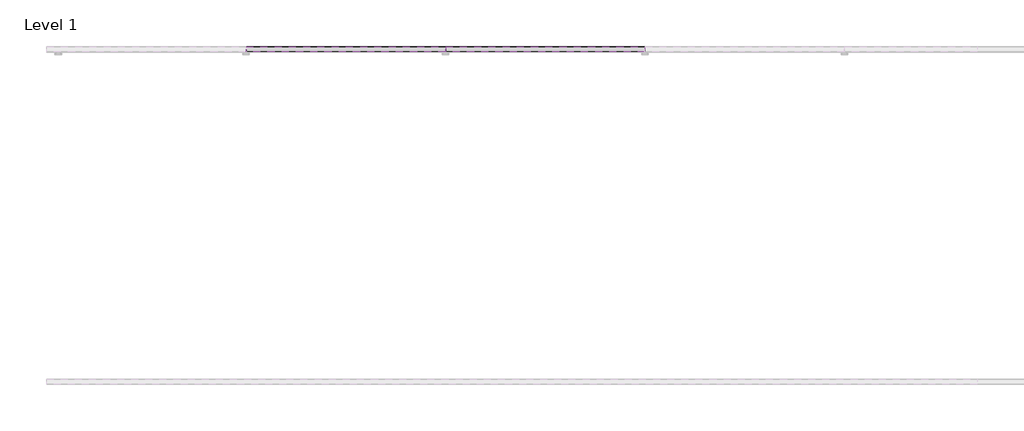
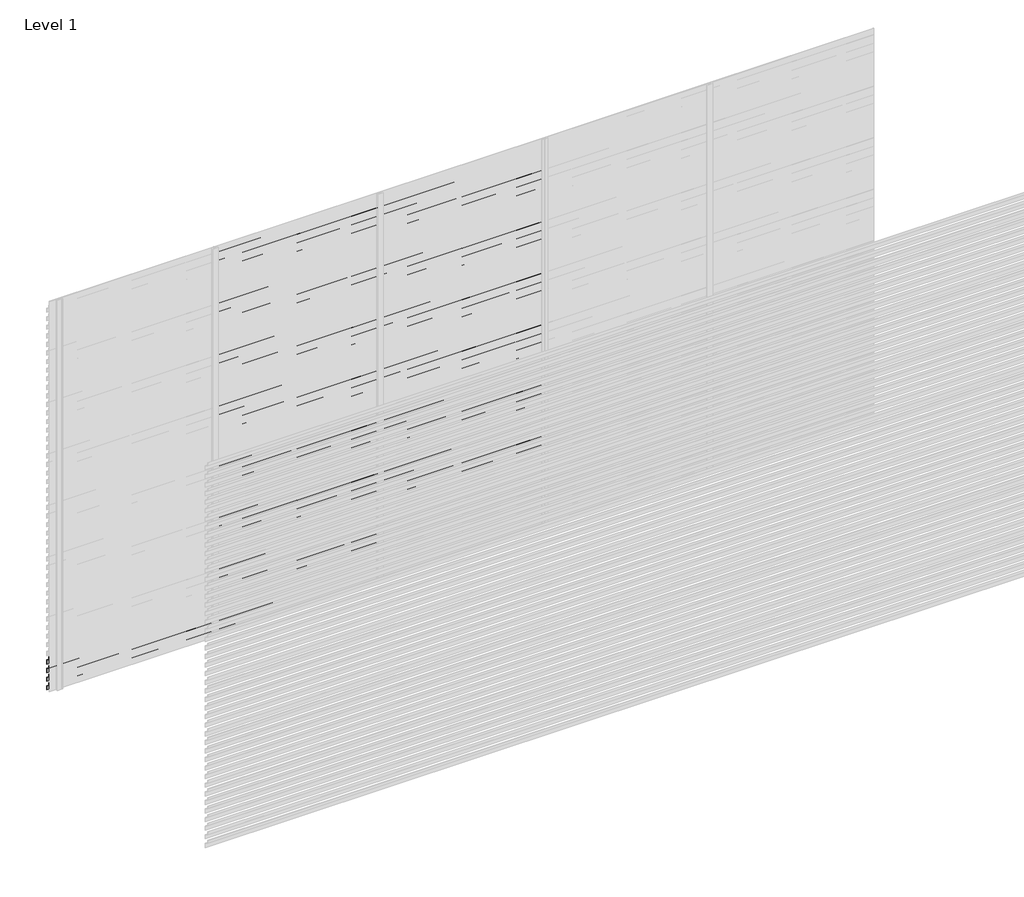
# One storey, part 95 of 540: 85 proxies.
"""IFC4 building model written with IfcOpenShell, lengths in millimetres."""

from ifc_helpers import new_model, si_unit, frame, origin, place, context, project, spatial, polyline, outline, extrude, element, save

model = new_model("IFC4")

# Units and contexts
model_context = context("Model", 3, world=origin())
ifc_project = project(units=[si_unit("LENGTHUNIT", "METRE", prefix="MILLI")], contexts=[model_context])

# Site, building, storey
site = spatial("IfcSite", under=ifc_project)
building = spatial("IfcBuilding", under=site)
storey = spatial("IfcBuildingStorey", under=building, Name="Level 1", Elevation=0.0)

# Proxies
placement = place(None, origin())
element("IfcBuildingElementProxy", 1, Name="Wall Sweeps", at=placement, inside=storey, context=model_context, shape_type="SweptSolid", body=[
    extrude(outline(polyline([(44014.0540136, 224.0), (44014.0540136, 191.0), (44012.8040136, 191.7216933), (44012.8040136, 223.2872415), (43983.0540136, 244.0588647), (43983.0540136, 264.0), (43984.3040136, 264.0), (43984.3040136, 244.7716232), (44014.0540136, 224.0)])), frame((44966.6208097, 0.0, 0.0), z_axis=(1.0, 0.0, 0.0), x_axis=(0.0, 1.0, 0.0)), (0.0, 0.0, 1.0), 1200.0),
])
element("IfcBuildingElementProxy", 2, Name="Wall Sweeps", at=placement, inside=storey, context=model_context, shape_type="SweptSolid", body=[
    extrude(outline(polyline([(44014.0540136, 158.0), (44014.0540136, 125.0), (44012.8040136, 125.7216933), (44012.8040136, 157.2872415), (43983.0540136, 178.0588647), (43983.0540136, 198.0), (43984.3040136, 198.0), (43984.3040136, 178.7716232), (44014.0540136, 158.0)])), frame((44966.6208097, 0.0, 0.0), z_axis=(1.0, 0.0, 0.0), x_axis=(0.0, 1.0, 0.0)), (0.0, 0.0, 1.0), 1200.0),
])
element("IfcBuildingElementProxy", 3, Name="Wall Sweeps", at=placement, inside=storey, context=model_context, shape_type="SweptSolid", body=[
    extrude(outline(polyline([(44014.0540136, 92.0), (44014.0540136, 59.0), (44012.8040136, 59.7216933), (44012.8040136, 91.2872415), (43983.0540136, 112.0588647), (43983.0540136, 132.0), (43984.3040136, 132.0), (43984.3040136, 112.7716232), (44014.0540136, 92.0)])), frame((44966.6208097, 0.0, 0.0), z_axis=(1.0, 0.0, 0.0), x_axis=(0.0, 1.0, 0.0)), (0.0, 0.0, 1.0), 1200.0),
])
element("IfcBuildingElementProxy", 4, Name="Wall Sweeps", at=placement, inside=storey, context=model_context, shape_type="SweptSolid", body=[
    extrude(outline(polyline([(44014.0540136, 26.0), (44014.0540136, -7.0), (44012.8040136, -6.2783067), (44012.8040136, 25.2872415), (43983.0540136, 46.0588647), (43983.0540136, 66.0), (43984.3040136, 66.0), (43984.3040136, 46.7716232), (44014.0540136, 26.0)])), frame((44966.6208097, 0.0, 0.0), z_axis=(1.0, 0.0, 0.0), x_axis=(0.0, 1.0, 0.0)), (0.0, 0.0, 1.0), 1200.0),
])
element("IfcBuildingElementProxy", 5, Name="Wall Sweeps", at=placement, inside=storey, context=model_context, shape_type="SweptSolid", body=[
    extrude(outline(polyline([(44014.0540136, 2930.0), (44014.0540136, 2897.0), (44012.8040136, 2897.7216933), (44012.8040136, 2929.2872415), (43983.0540136, 2950.0588647), (43983.0540136, 2970.0), (43984.3040136, 2970.0), (43984.3040136, 2950.7716232), (44014.0540136, 2930.0)])), frame((46166.6208097, 0.0, 0.0), z_axis=(1.0, 0.0, 0.0), x_axis=(0.0, 1.0, 0.0)), (0.0, 0.0, 1.0), 1200.0),
])
element("IfcBuildingElementProxy", 6, Name="Wall Sweeps", at=placement, inside=storey, context=model_context, shape_type="SweptSolid", body=[
    extrude(outline(polyline([(44014.0540136, 2864.0), (44014.0540136, 2831.0), (44012.8040136, 2831.7216933), (44012.8040136, 2863.2872415), (43983.0540136, 2884.0588647), (43983.0540136, 2904.0), (43984.3040136, 2904.0), (43984.3040136, 2884.7716232), (44014.0540136, 2864.0)])), frame((46166.6208097, 0.0, 0.0), z_axis=(1.0, 0.0, 0.0), x_axis=(0.0, 1.0, 0.0)), (0.0, 0.0, 1.0), 1200.0),
])
element("IfcBuildingElementProxy", 7, Name="Wall Sweeps", at=placement, inside=storey, context=model_context, shape_type="SweptSolid", body=[
    extrude(outline(polyline([(44014.0540136, 2798.0), (44014.0540136, 2765.0), (44012.8040136, 2765.7216933), (44012.8040136, 2797.2872415), (43983.0540136, 2818.0588647), (43983.0540136, 2838.0), (43984.3040136, 2838.0), (43984.3040136, 2818.7716232), (44014.0540136, 2798.0)])), frame((46166.6208097, 0.0, 0.0), z_axis=(1.0, 0.0, 0.0), x_axis=(0.0, 1.0, 0.0)), (0.0, 0.0, 1.0), 1200.0),
])
element("IfcBuildingElementProxy", 8, Name="Wall Sweeps", at=placement, inside=storey, context=model_context, shape_type="SweptSolid", body=[
    extrude(outline(polyline([(44014.0540136, 2732.0), (44014.0540136, 2699.0), (44012.8040136, 2699.7216933), (44012.8040136, 2731.2872415), (43983.0540136, 2752.0588647), (43983.0540136, 2772.0), (43984.3040136, 2772.0), (43984.3040136, 2752.7716232), (44014.0540136, 2732.0)])), frame((46166.6208097, 0.0, 0.0), z_axis=(1.0, 0.0, 0.0), x_axis=(0.0, 1.0, 0.0)), (0.0, 0.0, 1.0), 1200.0),
])
element("IfcBuildingElementProxy", 9, Name="Wall Sweeps", at=placement, inside=storey, context=model_context, shape_type="SweptSolid", body=[
    extrude(outline(polyline([(44014.0540136, 2666.0), (44014.0540136, 2633.0), (44012.8040136, 2633.7216933), (44012.8040136, 2665.2872415), (43983.0540136, 2686.0588647), (43983.0540136, 2706.0), (43984.3040136, 2706.0), (43984.3040136, 2686.7716232), (44014.0540136, 2666.0)])), frame((46166.6208097, 0.0, 0.0), z_axis=(1.0, 0.0, 0.0), x_axis=(0.0, 1.0, 0.0)), (0.0, 0.0, 1.0), 1200.0),
])
element("IfcBuildingElementProxy", 10, Name="Wall Sweeps", at=placement, inside=storey, context=model_context, shape_type="SweptSolid", body=[
    extrude(outline(polyline([(44014.0540136, 2600.0), (44014.0540136, 2567.0), (44012.8040136, 2567.7216933), (44012.8040136, 2599.2872415), (43983.0540136, 2620.0588647), (43983.0540136, 2640.0), (43984.3040136, 2640.0), (43984.3040136, 2620.7716232), (44014.0540136, 2600.0)])), frame((46166.6208097, 0.0, 0.0), z_axis=(1.0, 0.0, 0.0), x_axis=(0.0, 1.0, 0.0)), (0.0, 0.0, 1.0), 1200.0),
])
element("IfcBuildingElementProxy", 11, Name="Wall Sweeps", at=placement, inside=storey, context=model_context, shape_type="SweptSolid", body=[
    extrude(outline(polyline([(44014.0540136, 2534.0), (44014.0540136, 2501.0), (44012.8040136, 2501.7216933), (44012.8040136, 2533.2872415), (43983.0540136, 2554.0588647), (43983.0540136, 2574.0), (43984.3040136, 2574.0), (43984.3040136, 2554.7716232), (44014.0540136, 2534.0)])), frame((46166.6208097, 0.0, 0.0), z_axis=(1.0, 0.0, 0.0), x_axis=(0.0, 1.0, 0.0)), (0.0, 0.0, 1.0), 1200.0),
])
element("IfcBuildingElementProxy", 12, Name="Wall Sweeps", at=placement, inside=storey, context=model_context, shape_type="SweptSolid", body=[
    extrude(outline(polyline([(44014.0540136, 2468.0), (44014.0540136, 2435.0), (44012.8040136, 2435.7216933), (44012.8040136, 2467.2872415), (43983.0540136, 2488.0588647), (43983.0540136, 2508.0), (43984.3040136, 2508.0), (43984.3040136, 2488.7716232), (44014.0540136, 2468.0)])), frame((46166.6208097, 0.0, 0.0), z_axis=(1.0, 0.0, 0.0), x_axis=(0.0, 1.0, 0.0)), (0.0, 0.0, 1.0), 1200.0),
])
element("IfcBuildingElementProxy", 13, Name="Wall Sweeps", at=placement, inside=storey, context=model_context, shape_type="SweptSolid", body=[
    extrude(outline(polyline([(44014.0540136, 2402.0), (44014.0540136, 2369.0), (44012.8040136, 2369.7216933), (44012.8040136, 2401.2872415), (43983.0540136, 2422.0588647), (43983.0540136, 2442.0), (43984.3040136, 2442.0), (43984.3040136, 2422.7716232), (44014.0540136, 2402.0)])), frame((46166.6208097, 0.0, 0.0), z_axis=(1.0, 0.0, 0.0), x_axis=(0.0, 1.0, 0.0)), (0.0, 0.0, 1.0), 1200.0),
])
element("IfcBuildingElementProxy", 14, Name="Wall Sweeps", at=placement, inside=storey, context=model_context, shape_type="SweptSolid", body=[
    extrude(outline(polyline([(44014.0540136, 2336.0), (44014.0540136, 2303.0), (44012.8040136, 2303.7216933), (44012.8040136, 2335.2872415), (43983.0540136, 2356.0588647), (43983.0540136, 2376.0), (43984.3040136, 2376.0), (43984.3040136, 2356.7716232), (44014.0540136, 2336.0)])), frame((46166.6208097, 0.0, 0.0), z_axis=(1.0, 0.0, 0.0), x_axis=(0.0, 1.0, 0.0)), (0.0, 0.0, 1.0), 1200.0),
])
element("IfcBuildingElementProxy", 15, Name="Wall Sweeps", at=placement, inside=storey, context=model_context, shape_type="SweptSolid", body=[
    extrude(outline(polyline([(44014.0540136, 2270.0), (44014.0540136, 2237.0), (44012.8040136, 2237.7216933), (44012.8040136, 2269.2872415), (43983.0540136, 2290.0588647), (43983.0540136, 2310.0), (43984.3040136, 2310.0), (43984.3040136, 2290.7716232), (44014.0540136, 2270.0)])), frame((46166.6208097, 0.0, 0.0), z_axis=(1.0, 0.0, 0.0), x_axis=(0.0, 1.0, 0.0)), (0.0, 0.0, 1.0), 1200.0),
])
element("IfcBuildingElementProxy", 16, Name="Wall Sweeps", at=placement, inside=storey, context=model_context, shape_type="SweptSolid", body=[
    extrude(outline(polyline([(44014.0540136, 2204.0), (44014.0540136, 2171.0), (44012.8040136, 2171.7216933), (44012.8040136, 2203.2872415), (43983.0540136, 2224.0588647), (43983.0540136, 2244.0), (43984.3040136, 2244.0), (43984.3040136, 2224.7716232), (44014.0540136, 2204.0)])), frame((46166.6208097, 0.0, 0.0), z_axis=(1.0, 0.0, 0.0), x_axis=(0.0, 1.0, 0.0)), (0.0, 0.0, 1.0), 1200.0),
])
element("IfcBuildingElementProxy", 17, Name="Wall Sweeps", at=placement, inside=storey, context=model_context, shape_type="SweptSolid", body=[
    extrude(outline(polyline([(44014.0540136, 2138.0), (44014.0540136, 2105.0), (44012.8040136, 2105.7216933), (44012.8040136, 2137.2872415), (43983.0540136, 2158.0588647), (43983.0540136, 2178.0), (43984.3040136, 2178.0), (43984.3040136, 2158.7716232), (44014.0540136, 2138.0)])), frame((46166.6208097, 0.0, 0.0), z_axis=(1.0, 0.0, 0.0), x_axis=(0.0, 1.0, 0.0)), (0.0, 0.0, 1.0), 1200.0),
])
element("IfcBuildingElementProxy", 18, Name="Wall Sweeps", at=placement, inside=storey, context=model_context, shape_type="SweptSolid", body=[
    extrude(outline(polyline([(44014.0540136, 2072.0), (44014.0540136, 2039.0), (44012.8040136, 2039.7216933), (44012.8040136, 2071.2872415), (43983.0540136, 2092.0588647), (43983.0540136, 2112.0), (43984.3040136, 2112.0), (43984.3040136, 2092.7716232), (44014.0540136, 2072.0)])), frame((46166.6208097, 0.0, 0.0), z_axis=(1.0, 0.0, 0.0), x_axis=(0.0, 1.0, 0.0)), (0.0, 0.0, 1.0), 1200.0),
])
element("IfcBuildingElementProxy", 19, Name="Wall Sweeps", at=placement, inside=storey, context=model_context, shape_type="SweptSolid", body=[
    extrude(outline(polyline([(44014.0540136, 2006.0), (44014.0540136, 1973.0), (44012.8040136, 1973.7216933), (44012.8040136, 2005.2872415), (43983.0540136, 2026.0588647), (43983.0540136, 2046.0), (43984.3040136, 2046.0), (43984.3040136, 2026.7716232), (44014.0540136, 2006.0)])), frame((46166.6208097, 0.0, 0.0), z_axis=(1.0, 0.0, 0.0), x_axis=(0.0, 1.0, 0.0)), (0.0, 0.0, 1.0), 1200.0),
])
element("IfcBuildingElementProxy", 20, Name="Wall Sweeps", at=placement, inside=storey, context=model_context, shape_type="SweptSolid", body=[
    extrude(outline(polyline([(44014.0540136, 1940.0), (44014.0540136, 1907.0), (44012.8040136, 1907.7216933), (44012.8040136, 1939.2872415), (43983.0540136, 1960.0588647), (43983.0540136, 1980.0), (43984.3040136, 1980.0), (43984.3040136, 1960.7716232), (44014.0540136, 1940.0)])), frame((46166.6208097, 0.0, 0.0), z_axis=(1.0, 0.0, 0.0), x_axis=(0.0, 1.0, 0.0)), (0.0, 0.0, 1.0), 1200.0),
])
element("IfcBuildingElementProxy", 21, Name="Wall Sweeps", at=placement, inside=storey, context=model_context, shape_type="SweptSolid", body=[
    extrude(outline(polyline([(44014.0540136, 1874.0), (44014.0540136, 1841.0), (44012.8040136, 1841.7216933), (44012.8040136, 1873.2872415), (43983.0540136, 1894.0588647), (43983.0540136, 1914.0), (43984.3040136, 1914.0), (43984.3040136, 1894.7716232), (44014.0540136, 1874.0)])), frame((46166.6208097, 0.0, 0.0), z_axis=(1.0, 0.0, 0.0), x_axis=(0.0, 1.0, 0.0)), (0.0, 0.0, 1.0), 1200.0),
])
element("IfcBuildingElementProxy", 22, Name="Wall Sweeps", at=placement, inside=storey, context=model_context, shape_type="SweptSolid", body=[
    extrude(outline(polyline([(44014.0540136, 1808.0), (44014.0540136, 1775.0), (44012.8040136, 1775.7216933), (44012.8040136, 1807.2872415), (43983.0540136, 1828.0588647), (43983.0540136, 1848.0), (43984.3040136, 1848.0), (43984.3040136, 1828.7716232), (44014.0540136, 1808.0)])), frame((46166.6208097, 0.0, 0.0), z_axis=(1.0, 0.0, 0.0), x_axis=(0.0, 1.0, 0.0)), (0.0, 0.0, 1.0), 1200.0),
])
element("IfcBuildingElementProxy", 23, Name="Wall Sweeps", at=placement, inside=storey, context=model_context, shape_type="SweptSolid", body=[
    extrude(outline(polyline([(44014.0540136, 1742.0), (44014.0540136, 1709.0), (44012.8040136, 1709.7216933), (44012.8040136, 1741.2872415), (43983.0540136, 1762.0588647), (43983.0540136, 1782.0), (43984.3040136, 1782.0), (43984.3040136, 1762.7716232), (44014.0540136, 1742.0)])), frame((46166.6208097, 0.0, 0.0), z_axis=(1.0, 0.0, 0.0), x_axis=(0.0, 1.0, 0.0)), (0.0, 0.0, 1.0), 1200.0),
])
element("IfcBuildingElementProxy", 24, Name="Wall Sweeps", at=placement, inside=storey, context=model_context, shape_type="SweptSolid", body=[
    extrude(outline(polyline([(44014.0540136, 1676.0), (44014.0540136, 1643.0), (44012.8040136, 1643.7216933), (44012.8040136, 1675.2872415), (43983.0540136, 1696.0588647), (43983.0540136, 1716.0), (43984.3040136, 1716.0), (43984.3040136, 1696.7716232), (44014.0540136, 1676.0)])), frame((46166.6208097, 0.0, 0.0), z_axis=(1.0, 0.0, 0.0), x_axis=(0.0, 1.0, 0.0)), (0.0, 0.0, 1.0), 1200.0),
])
element("IfcBuildingElementProxy", 25, Name="Wall Sweeps", at=placement, inside=storey, context=model_context, shape_type="SweptSolid", body=[
    extrude(outline(polyline([(44014.0540136, 1610.0), (44014.0540136, 1577.0), (44012.8040136, 1577.7216933), (44012.8040136, 1609.2872415), (43983.0540136, 1630.0588647), (43983.0540136, 1650.0), (43984.3040136, 1650.0), (43984.3040136, 1630.7716232), (44014.0540136, 1610.0)])), frame((46166.6208097, 0.0, 0.0), z_axis=(1.0, 0.0, 0.0), x_axis=(0.0, 1.0, 0.0)), (0.0, 0.0, 1.0), 1200.0),
])
element("IfcBuildingElementProxy", 26, Name="Wall Sweeps", at=placement, inside=storey, context=model_context, shape_type="SweptSolid", body=[
    extrude(outline(polyline([(44014.0540136, 1544.0), (44014.0540136, 1511.0), (44012.8040136, 1511.7216933), (44012.8040136, 1543.2872415), (43983.0540136, 1564.0588647), (43983.0540136, 1584.0), (43984.3040136, 1584.0), (43984.3040136, 1564.7716232), (44014.0540136, 1544.0)])), frame((46166.6208097, 0.0, 0.0), z_axis=(1.0, 0.0, 0.0), x_axis=(0.0, 1.0, 0.0)), (0.0, 0.0, 1.0), 1200.0),
])
element("IfcBuildingElementProxy", 27, Name="Wall Sweeps", at=placement, inside=storey, context=model_context, shape_type="SweptSolid", body=[
    extrude(outline(polyline([(44014.0540136, 1478.0), (44014.0540136, 1445.0), (44012.8040136, 1445.7216933), (44012.8040136, 1477.2872415), (43983.0540136, 1498.0588647), (43983.0540136, 1518.0), (43984.3040136, 1518.0), (43984.3040136, 1498.7716232), (44014.0540136, 1478.0)])), frame((46166.6208097, 0.0, 0.0), z_axis=(1.0, 0.0, 0.0), x_axis=(0.0, 1.0, 0.0)), (0.0, 0.0, 1.0), 1200.0),
])
element("IfcBuildingElementProxy", 28, Name="Wall Sweeps", at=placement, inside=storey, context=model_context, shape_type="SweptSolid", body=[
    extrude(outline(polyline([(44014.0540136, 1412.0), (44014.0540136, 1379.0), (44012.8040136, 1379.7216933), (44012.8040136, 1411.2872415), (43983.0540136, 1432.0588647), (43983.0540136, 1452.0), (43984.3040136, 1452.0), (43984.3040136, 1432.7716232), (44014.0540136, 1412.0)])), frame((46166.6208097, 0.0, 0.0), z_axis=(1.0, 0.0, 0.0), x_axis=(0.0, 1.0, 0.0)), (0.0, 0.0, 1.0), 1200.0),
])
element("IfcBuildingElementProxy", 29, Name="Wall Sweeps", at=placement, inside=storey, context=model_context, shape_type="SweptSolid", body=[
    extrude(outline(polyline([(44014.0540136, 1346.0), (44014.0540136, 1313.0), (44012.8040136, 1313.7216933), (44012.8040136, 1345.2872415), (43983.0540136, 1366.0588647), (43983.0540136, 1386.0), (43984.3040136, 1386.0), (43984.3040136, 1366.7716232), (44014.0540136, 1346.0)])), frame((46166.6208097, 0.0, 0.0), z_axis=(1.0, 0.0, 0.0), x_axis=(0.0, 1.0, 0.0)), (0.0, 0.0, 1.0), 1200.0),
])
element("IfcBuildingElementProxy", 30, Name="Wall Sweeps", at=placement, inside=storey, context=model_context, shape_type="SweptSolid", body=[
    extrude(outline(polyline([(44014.0540136, 1280.0), (44014.0540136, 1247.0), (44012.8040136, 1247.7216933), (44012.8040136, 1279.2872415), (43983.0540136, 1300.0588647), (43983.0540136, 1320.0), (43984.3040136, 1320.0), (43984.3040136, 1300.7716232), (44014.0540136, 1280.0)])), frame((46166.6208097, 0.0, 0.0), z_axis=(1.0, 0.0, 0.0), x_axis=(0.0, 1.0, 0.0)), (0.0, 0.0, 1.0), 1200.0),
])
element("IfcBuildingElementProxy", 31, Name="Wall Sweeps", at=placement, inside=storey, context=model_context, shape_type="SweptSolid", body=[
    extrude(outline(polyline([(44014.0540136, 1214.0), (44014.0540136, 1181.0), (44012.8040136, 1181.7216933), (44012.8040136, 1213.2872415), (43983.0540136, 1234.0588647), (43983.0540136, 1254.0), (43984.3040136, 1254.0), (43984.3040136, 1234.7716232), (44014.0540136, 1214.0)])), frame((46166.6208097, 0.0, 0.0), z_axis=(1.0, 0.0, 0.0), x_axis=(0.0, 1.0, 0.0)), (0.0, 0.0, 1.0), 1200.0),
])
element("IfcBuildingElementProxy", 32, Name="Wall Sweeps", at=placement, inside=storey, context=model_context, shape_type="SweptSolid", body=[
    extrude(outline(polyline([(44014.0540136, 1148.0), (44014.0540136, 1115.0), (44012.8040136, 1115.7216933), (44012.8040136, 1147.2872415), (43983.0540136, 1168.0588647), (43983.0540136, 1188.0), (43984.3040136, 1188.0), (43984.3040136, 1168.7716232), (44014.0540136, 1148.0)])), frame((46166.6208097, 0.0, 0.0), z_axis=(1.0, 0.0, 0.0), x_axis=(0.0, 1.0, 0.0)), (0.0, 0.0, 1.0), 1200.0),
])
element("IfcBuildingElementProxy", 33, Name="Wall Sweeps", at=placement, inside=storey, context=model_context, shape_type="SweptSolid", body=[
    extrude(outline(polyline([(44014.0540136, 1082.0), (44014.0540136, 1049.0), (44012.8040136, 1049.7216933), (44012.8040136, 1081.2872415), (43983.0540136, 1102.0588647), (43983.0540136, 1122.0), (43984.3040136, 1122.0), (43984.3040136, 1102.7716232), (44014.0540136, 1082.0)])), frame((46166.6208097, 0.0, 0.0), z_axis=(1.0, 0.0, 0.0), x_axis=(0.0, 1.0, 0.0)), (0.0, 0.0, 1.0), 1200.0),
])
element("IfcBuildingElementProxy", 34, Name="Wall Sweeps", at=placement, inside=storey, context=model_context, shape_type="SweptSolid", body=[
    extrude(outline(polyline([(44014.0540136, 1016.0), (44014.0540136, 983.0), (44012.8040136, 983.7216933), (44012.8040136, 1015.2872415), (43983.0540136, 1036.0588647), (43983.0540136, 1056.0), (43984.3040136, 1056.0), (43984.3040136, 1036.7716232), (44014.0540136, 1016.0)])), frame((46166.6208097, 0.0, 0.0), z_axis=(1.0, 0.0, 0.0), x_axis=(0.0, 1.0, 0.0)), (0.0, 0.0, 1.0), 1200.0),
])
element("IfcBuildingElementProxy", 35, Name="Wall Sweeps", at=placement, inside=storey, context=model_context, shape_type="SweptSolid", body=[
    extrude(outline(polyline([(44014.0540136, 950.0), (44014.0540136, 917.0), (44012.8040136, 917.7216933), (44012.8040136, 949.2872415), (43983.0540136, 970.0588647), (43983.0540136, 990.0), (43984.3040136, 990.0), (43984.3040136, 970.7716232), (44014.0540136, 950.0)])), frame((46166.6208097, 0.0, 0.0), z_axis=(1.0, 0.0, 0.0), x_axis=(0.0, 1.0, 0.0)), (0.0, 0.0, 1.0), 1200.0),
])
element("IfcBuildingElementProxy", 36, Name="Wall Sweeps", at=placement, inside=storey, context=model_context, shape_type="SweptSolid", body=[
    extrude(outline(polyline([(44014.0540136, 884.0), (44014.0540136, 851.0), (44012.8040136, 851.7216933), (44012.8040136, 883.2872415), (43983.0540136, 904.0588647), (43983.0540136, 924.0), (43984.3040136, 924.0), (43984.3040136, 904.7716232), (44014.0540136, 884.0)])), frame((46166.6208097, 0.0, 0.0), z_axis=(1.0, 0.0, 0.0), x_axis=(0.0, 1.0, 0.0)), (0.0, 0.0, 1.0), 1200.0),
])
element("IfcBuildingElementProxy", 37, Name="Wall Sweeps", at=placement, inside=storey, context=model_context, shape_type="SweptSolid", body=[
    extrude(outline(polyline([(44014.0540136, 818.0), (44014.0540136, 785.0), (44012.8040136, 785.7216933), (44012.8040136, 817.2872415), (43983.0540136, 838.0588647), (43983.0540136, 858.0), (43984.3040136, 858.0), (43984.3040136, 838.7716232), (44014.0540136, 818.0)])), frame((46166.6208097, 0.0, 0.0), z_axis=(1.0, 0.0, 0.0), x_axis=(0.0, 1.0, 0.0)), (0.0, 0.0, 1.0), 1200.0),
])
element("IfcBuildingElementProxy", 38, Name="Wall Sweeps", at=placement, inside=storey, context=model_context, shape_type="SweptSolid", body=[
    extrude(outline(polyline([(44014.0540136, 752.0), (44014.0540136, 719.0), (44012.8040136, 719.7216933), (44012.8040136, 751.2872415), (43983.0540136, 772.0588647), (43983.0540136, 792.0), (43984.3040136, 792.0), (43984.3040136, 772.7716232), (44014.0540136, 752.0)])), frame((46166.6208097, 0.0, 0.0), z_axis=(1.0, 0.0, 0.0), x_axis=(0.0, 1.0, 0.0)), (0.0, 0.0, 1.0), 1200.0),
])
element("IfcBuildingElementProxy", 39, Name="Wall Sweeps", at=placement, inside=storey, context=model_context, shape_type="SweptSolid", body=[
    extrude(outline(polyline([(44014.0540136, 686.0), (44014.0540136, 653.0), (44012.8040136, 653.7216933), (44012.8040136, 685.2872415), (43983.0540136, 706.0588647), (43983.0540136, 726.0), (43984.3040136, 726.0), (43984.3040136, 706.7716232), (44014.0540136, 686.0)])), frame((46166.6208097, 0.0, 0.0), z_axis=(1.0, 0.0, 0.0), x_axis=(0.0, 1.0, 0.0)), (0.0, 0.0, 1.0), 1200.0),
])
element("IfcBuildingElementProxy", 40, Name="Wall Sweeps", at=placement, inside=storey, context=model_context, shape_type="SweptSolid", body=[
    extrude(outline(polyline([(44014.0540136, 620.0), (44014.0540136, 587.0), (44012.8040136, 587.7216933), (44012.8040136, 619.2872415), (43983.0540136, 640.0588647), (43983.0540136, 660.0), (43984.3040136, 660.0), (43984.3040136, 640.7716232), (44014.0540136, 620.0)])), frame((46166.6208097, 0.0, 0.0), z_axis=(1.0, 0.0, 0.0), x_axis=(0.0, 1.0, 0.0)), (0.0, 0.0, 1.0), 1200.0),
])
element("IfcBuildingElementProxy", 41, Name="Wall Sweeps", at=placement, inside=storey, context=model_context, shape_type="SweptSolid", body=[
    extrude(outline(polyline([(44014.0540136, 554.0), (44014.0540136, 521.0), (44012.8040136, 521.7216933), (44012.8040136, 553.2872415), (43983.0540136, 574.0588647), (43983.0540136, 594.0), (43984.3040136, 594.0), (43984.3040136, 574.7716232), (44014.0540136, 554.0)])), frame((46166.6208097, 0.0, 0.0), z_axis=(1.0, 0.0, 0.0), x_axis=(0.0, 1.0, 0.0)), (0.0, 0.0, 1.0), 1200.0),
])
element("IfcBuildingElementProxy", 42, Name="Wall Sweeps", at=placement, inside=storey, context=model_context, shape_type="SweptSolid", body=[
    extrude(outline(polyline([(44014.0540136, 488.0), (44014.0540136, 455.0), (44012.8040136, 455.7216933), (44012.8040136, 487.2872415), (43983.0540136, 508.0588647), (43983.0540136, 528.0), (43984.3040136, 528.0), (43984.3040136, 508.7716232), (44014.0540136, 488.0)])), frame((46166.6208097, 0.0, 0.0), z_axis=(1.0, 0.0, 0.0), x_axis=(0.0, 1.0, 0.0)), (0.0, 0.0, 1.0), 1200.0),
])
element("IfcBuildingElementProxy", 43, Name="Wall Sweeps", at=placement, inside=storey, context=model_context, shape_type="SweptSolid", body=[
    extrude(outline(polyline([(44014.0540136, 422.0), (44014.0540136, 389.0), (44012.8040136, 389.7216933), (44012.8040136, 421.2872415), (43983.0540136, 442.0588647), (43983.0540136, 462.0), (43984.3040136, 462.0), (43984.3040136, 442.7716232), (44014.0540136, 422.0)])), frame((46166.6208097, 0.0, 0.0), z_axis=(1.0, 0.0, 0.0), x_axis=(0.0, 1.0, 0.0)), (0.0, 0.0, 1.0), 1200.0),
])
element("IfcBuildingElementProxy", 44, Name="Wall Sweeps", at=placement, inside=storey, context=model_context, shape_type="SweptSolid", body=[
    extrude(outline(polyline([(44014.0540136, 356.0), (44014.0540136, 323.0), (44012.8040136, 323.7216933), (44012.8040136, 355.2872415), (43983.0540136, 376.0588647), (43983.0540136, 396.0), (43984.3040136, 396.0), (43984.3040136, 376.7716232), (44014.0540136, 356.0)])), frame((46166.6208097, 0.0, 0.0), z_axis=(1.0, 0.0, 0.0), x_axis=(0.0, 1.0, 0.0)), (0.0, 0.0, 1.0), 1200.0),
])
element("IfcBuildingElementProxy", 45, Name="Wall Sweeps", at=placement, inside=storey, context=model_context, shape_type="SweptSolid", body=[
    extrude(outline(polyline([(44014.0540136, 290.0), (44014.0540136, 257.0), (44012.8040136, 257.7216933), (44012.8040136, 289.2872415), (43983.0540136, 310.0588647), (43983.0540136, 330.0), (43984.3040136, 330.0), (43984.3040136, 310.7716232), (44014.0540136, 290.0)])), frame((46166.6208097, 0.0, 0.0), z_axis=(1.0, 0.0, 0.0), x_axis=(0.0, 1.0, 0.0)), (0.0, 0.0, 1.0), 1200.0),
])
element("IfcBuildingElementProxy", 46, Name="Wall Sweeps", at=placement, inside=storey, context=model_context, shape_type="SweptSolid", body=[
    extrude(outline(polyline([(44014.0540136, 224.0), (44014.0540136, 191.0), (44012.8040136, 191.7216933), (44012.8040136, 223.2872415), (43983.0540136, 244.0588647), (43983.0540136, 264.0), (43984.3040136, 264.0), (43984.3040136, 244.7716232), (44014.0540136, 224.0)])), frame((46166.6208097, 0.0, 0.0), z_axis=(1.0, 0.0, 0.0), x_axis=(0.0, 1.0, 0.0)), (0.0, 0.0, 1.0), 1200.0),
])
element("IfcBuildingElementProxy", 47, Name="Wall Sweeps", at=placement, inside=storey, context=model_context, shape_type="SweptSolid", body=[
    extrude(outline(polyline([(44014.0540136, 158.0), (44014.0540136, 125.0), (44012.8040136, 125.7216933), (44012.8040136, 157.2872415), (43983.0540136, 178.0588647), (43983.0540136, 198.0), (43984.3040136, 198.0), (43984.3040136, 178.7716232), (44014.0540136, 158.0)])), frame((46166.6208097, 0.0, 0.0), z_axis=(1.0, 0.0, 0.0), x_axis=(0.0, 1.0, 0.0)), (0.0, 0.0, 1.0), 1200.0),
])
element("IfcBuildingElementProxy", 48, Name="Wall Sweeps", at=placement, inside=storey, context=model_context, shape_type="SweptSolid", body=[
    extrude(outline(polyline([(44014.0540136, 92.0), (44014.0540136, 59.0), (44012.8040136, 59.7216933), (44012.8040136, 91.2872415), (43983.0540136, 112.0588647), (43983.0540136, 132.0), (43984.3040136, 132.0), (43984.3040136, 112.7716232), (44014.0540136, 92.0)])), frame((46166.6208097, 0.0, 0.0), z_axis=(1.0, 0.0, 0.0), x_axis=(0.0, 1.0, 0.0)), (0.0, 0.0, 1.0), 1200.0),
])
element("IfcBuildingElementProxy", 49, Name="Wall Sweeps", at=placement, inside=storey, context=model_context, shape_type="SweptSolid", body=[
    extrude(outline(polyline([(44014.0540136, 26.0), (44014.0540136, -7.0), (44012.8040136, -6.2783067), (44012.8040136, 25.2872415), (43983.0540136, 46.0588647), (43983.0540136, 66.0), (43984.3040136, 66.0), (43984.3040136, 46.7716232), (44014.0540136, 26.0)])), frame((46166.6208097, 0.0, 0.0), z_axis=(1.0, 0.0, 0.0), x_axis=(0.0, 1.0, 0.0)), (0.0, 0.0, 1.0), 1200.0),
])
element("IfcBuildingElementProxy", 50, Name="Wall Sweeps", at=placement, inside=storey, context=model_context, shape_type="SweptSolid", body=[
    extrude(outline(polyline([(44014.0540136, 2930.0), (44014.0540136, 2897.0), (44012.8040136, 2897.7216933), (44012.8040136, 2929.2872415), (43983.0540136, 2950.0588647), (43983.0540136, 2970.0), (43984.3040136, 2970.0), (43984.3040136, 2950.7716232), (44014.0540136, 2930.0)])), frame((47366.6208097, 0.0, 0.0), z_axis=(1.0, 0.0, 0.0), x_axis=(0.0, 1.0, 0.0)), (0.0, 0.0, 1.0), 1200.0),
])
element("IfcBuildingElementProxy", 51, Name="Wall Sweeps", at=placement, inside=storey, context=model_context, shape_type="SweptSolid", body=[
    extrude(outline(polyline([(44014.0540136, 2864.0), (44014.0540136, 2831.0), (44012.8040136, 2831.7216933), (44012.8040136, 2863.2872415), (43983.0540136, 2884.0588647), (43983.0540136, 2904.0), (43984.3040136, 2904.0), (43984.3040136, 2884.7716232), (44014.0540136, 2864.0)])), frame((47366.6208097, 0.0, 0.0), z_axis=(1.0, 0.0, 0.0), x_axis=(0.0, 1.0, 0.0)), (0.0, 0.0, 1.0), 1200.0),
])
element("IfcBuildingElementProxy", 52, Name="Wall Sweeps", at=placement, inside=storey, context=model_context, shape_type="SweptSolid", body=[
    extrude(outline(polyline([(44014.0540136, 2798.0), (44014.0540136, 2765.0), (44012.8040136, 2765.7216933), (44012.8040136, 2797.2872415), (43983.0540136, 2818.0588647), (43983.0540136, 2838.0), (43984.3040136, 2838.0), (43984.3040136, 2818.7716232), (44014.0540136, 2798.0)])), frame((47366.6208097, 0.0, 0.0), z_axis=(1.0, 0.0, 0.0), x_axis=(0.0, 1.0, 0.0)), (0.0, 0.0, 1.0), 1200.0),
])
element("IfcBuildingElementProxy", 53, Name="Wall Sweeps", at=placement, inside=storey, context=model_context, shape_type="SweptSolid", body=[
    extrude(outline(polyline([(44014.0540136, 2732.0), (44014.0540136, 2699.0), (44012.8040136, 2699.7216933), (44012.8040136, 2731.2872415), (43983.0540136, 2752.0588647), (43983.0540136, 2772.0), (43984.3040136, 2772.0), (43984.3040136, 2752.7716232), (44014.0540136, 2732.0)])), frame((47366.6208097, 0.0, 0.0), z_axis=(1.0, 0.0, 0.0), x_axis=(0.0, 1.0, 0.0)), (0.0, 0.0, 1.0), 1200.0),
])
element("IfcBuildingElementProxy", 54, Name="Wall Sweeps", at=placement, inside=storey, context=model_context, shape_type="SweptSolid", body=[
    extrude(outline(polyline([(44014.0540136, 2666.0), (44014.0540136, 2633.0), (44012.8040136, 2633.7216933), (44012.8040136, 2665.2872415), (43983.0540136, 2686.0588647), (43983.0540136, 2706.0), (43984.3040136, 2706.0), (43984.3040136, 2686.7716232), (44014.0540136, 2666.0)])), frame((47366.6208097, 0.0, 0.0), z_axis=(1.0, 0.0, 0.0), x_axis=(0.0, 1.0, 0.0)), (0.0, 0.0, 1.0), 1200.0),
])
element("IfcBuildingElementProxy", 55, Name="Wall Sweeps", at=placement, inside=storey, context=model_context, shape_type="SweptSolid", body=[
    extrude(outline(polyline([(44014.0540136, 2600.0), (44014.0540136, 2567.0), (44012.8040136, 2567.7216933), (44012.8040136, 2599.2872415), (43983.0540136, 2620.0588647), (43983.0540136, 2640.0), (43984.3040136, 2640.0), (43984.3040136, 2620.7716232), (44014.0540136, 2600.0)])), frame((47366.6208097, 0.0, 0.0), z_axis=(1.0, 0.0, 0.0), x_axis=(0.0, 1.0, 0.0)), (0.0, 0.0, 1.0), 1200.0),
])
element("IfcBuildingElementProxy", 56, Name="Wall Sweeps", at=placement, inside=storey, context=model_context, shape_type="SweptSolid", body=[
    extrude(outline(polyline([(44014.0540136, 2534.0), (44014.0540136, 2501.0), (44012.8040136, 2501.7216933), (44012.8040136, 2533.2872415), (43983.0540136, 2554.0588647), (43983.0540136, 2574.0), (43984.3040136, 2574.0), (43984.3040136, 2554.7716232), (44014.0540136, 2534.0)])), frame((47366.6208097, 0.0, 0.0), z_axis=(1.0, 0.0, 0.0), x_axis=(0.0, 1.0, 0.0)), (0.0, 0.0, 1.0), 1200.0),
])
element("IfcBuildingElementProxy", 57, Name="Wall Sweeps", at=placement, inside=storey, context=model_context, shape_type="SweptSolid", body=[
    extrude(outline(polyline([(44014.0540136, 2468.0), (44014.0540136, 2435.0), (44012.8040136, 2435.7216933), (44012.8040136, 2467.2872415), (43983.0540136, 2488.0588647), (43983.0540136, 2508.0), (43984.3040136, 2508.0), (43984.3040136, 2488.7716232), (44014.0540136, 2468.0)])), frame((47366.6208097, 0.0, 0.0), z_axis=(1.0, 0.0, 0.0), x_axis=(0.0, 1.0, 0.0)), (0.0, 0.0, 1.0), 1200.0),
])
element("IfcBuildingElementProxy", 58, Name="Wall Sweeps", at=placement, inside=storey, context=model_context, shape_type="SweptSolid", body=[
    extrude(outline(polyline([(44014.0540136, 2402.0), (44014.0540136, 2369.0), (44012.8040136, 2369.7216933), (44012.8040136, 2401.2872415), (43983.0540136, 2422.0588647), (43983.0540136, 2442.0), (43984.3040136, 2442.0), (43984.3040136, 2422.7716232), (44014.0540136, 2402.0)])), frame((47366.6208097, 0.0, 0.0), z_axis=(1.0, 0.0, 0.0), x_axis=(0.0, 1.0, 0.0)), (0.0, 0.0, 1.0), 1200.0),
])
element("IfcBuildingElementProxy", 59, Name="Wall Sweeps", at=placement, inside=storey, context=model_context, shape_type="SweptSolid", body=[
    extrude(outline(polyline([(44014.0540136, 2336.0), (44014.0540136, 2303.0), (44012.8040136, 2303.7216933), (44012.8040136, 2335.2872415), (43983.0540136, 2356.0588647), (43983.0540136, 2376.0), (43984.3040136, 2376.0), (43984.3040136, 2356.7716232), (44014.0540136, 2336.0)])), frame((47366.6208097, 0.0, 0.0), z_axis=(1.0, 0.0, 0.0), x_axis=(0.0, 1.0, 0.0)), (0.0, 0.0, 1.0), 1200.0),
])
element("IfcBuildingElementProxy", 60, Name="Wall Sweeps", at=placement, inside=storey, context=model_context, shape_type="SweptSolid", body=[
    extrude(outline(polyline([(44014.0540136, 2270.0), (44014.0540136, 2237.0), (44012.8040136, 2237.7216933), (44012.8040136, 2269.2872415), (43983.0540136, 2290.0588647), (43983.0540136, 2310.0), (43984.3040136, 2310.0), (43984.3040136, 2290.7716232), (44014.0540136, 2270.0)])), frame((47366.6208097, 0.0, 0.0), z_axis=(1.0, 0.0, 0.0), x_axis=(0.0, 1.0, 0.0)), (0.0, 0.0, 1.0), 1200.0),
])
element("IfcBuildingElementProxy", 61, Name="Wall Sweeps", at=placement, inside=storey, context=model_context, shape_type="SweptSolid", body=[
    extrude(outline(polyline([(44014.0540136, 2204.0), (44014.0540136, 2171.0), (44012.8040136, 2171.7216933), (44012.8040136, 2203.2872415), (43983.0540136, 2224.0588647), (43983.0540136, 2244.0), (43984.3040136, 2244.0), (43984.3040136, 2224.7716232), (44014.0540136, 2204.0)])), frame((47366.6208097, 0.0, 0.0), z_axis=(1.0, 0.0, 0.0), x_axis=(0.0, 1.0, 0.0)), (0.0, 0.0, 1.0), 1200.0),
])
element("IfcBuildingElementProxy", 62, Name="Wall Sweeps", at=placement, inside=storey, context=model_context, shape_type="SweptSolid", body=[
    extrude(outline(polyline([(44014.0540136, 2138.0), (44014.0540136, 2105.0), (44012.8040136, 2105.7216933), (44012.8040136, 2137.2872415), (43983.0540136, 2158.0588647), (43983.0540136, 2178.0), (43984.3040136, 2178.0), (43984.3040136, 2158.7716232), (44014.0540136, 2138.0)])), frame((47366.6208097, 0.0, 0.0), z_axis=(1.0, 0.0, 0.0), x_axis=(0.0, 1.0, 0.0)), (0.0, 0.0, 1.0), 1200.0),
])
element("IfcBuildingElementProxy", 63, Name="Wall Sweeps", at=placement, inside=storey, context=model_context, shape_type="SweptSolid", body=[
    extrude(outline(polyline([(44014.0540136, 2072.0), (44014.0540136, 2039.0), (44012.8040136, 2039.7216933), (44012.8040136, 2071.2872415), (43983.0540136, 2092.0588647), (43983.0540136, 2112.0), (43984.3040136, 2112.0), (43984.3040136, 2092.7716232), (44014.0540136, 2072.0)])), frame((47366.6208097, 0.0, 0.0), z_axis=(1.0, 0.0, 0.0), x_axis=(0.0, 1.0, 0.0)), (0.0, 0.0, 1.0), 1200.0),
])
element("IfcBuildingElementProxy", 64, Name="Wall Sweeps", at=placement, inside=storey, context=model_context, shape_type="SweptSolid", body=[
    extrude(outline(polyline([(44014.0540136, 2006.0), (44014.0540136, 1973.0), (44012.8040136, 1973.7216933), (44012.8040136, 2005.2872415), (43983.0540136, 2026.0588647), (43983.0540136, 2046.0), (43984.3040136, 2046.0), (43984.3040136, 2026.7716232), (44014.0540136, 2006.0)])), frame((47366.6208097, 0.0, 0.0), z_axis=(1.0, 0.0, 0.0), x_axis=(0.0, 1.0, 0.0)), (0.0, 0.0, 1.0), 1200.0),
])
element("IfcBuildingElementProxy", 65, Name="Wall Sweeps", at=placement, inside=storey, context=model_context, shape_type="SweptSolid", body=[
    extrude(outline(polyline([(44014.0540136, 1940.0), (44014.0540136, 1907.0), (44012.8040136, 1907.7216933), (44012.8040136, 1939.2872415), (43983.0540136, 1960.0588647), (43983.0540136, 1980.0), (43984.3040136, 1980.0), (43984.3040136, 1960.7716232), (44014.0540136, 1940.0)])), frame((47366.6208097, 0.0, 0.0), z_axis=(1.0, 0.0, 0.0), x_axis=(0.0, 1.0, 0.0)), (0.0, 0.0, 1.0), 1200.0),
])
element("IfcBuildingElementProxy", 66, Name="Wall Sweeps", at=placement, inside=storey, context=model_context, shape_type="SweptSolid", body=[
    extrude(outline(polyline([(44014.0540136, 1874.0), (44014.0540136, 1841.0), (44012.8040136, 1841.7216933), (44012.8040136, 1873.2872415), (43983.0540136, 1894.0588647), (43983.0540136, 1914.0), (43984.3040136, 1914.0), (43984.3040136, 1894.7716232), (44014.0540136, 1874.0)])), frame((47366.6208097, 0.0, 0.0), z_axis=(1.0, 0.0, 0.0), x_axis=(0.0, 1.0, 0.0)), (0.0, 0.0, 1.0), 1200.0),
])
element("IfcBuildingElementProxy", 67, Name="Wall Sweeps", at=placement, inside=storey, context=model_context, shape_type="SweptSolid", body=[
    extrude(outline(polyline([(44014.0540136, 1808.0), (44014.0540136, 1775.0), (44012.8040136, 1775.7216933), (44012.8040136, 1807.2872415), (43983.0540136, 1828.0588647), (43983.0540136, 1848.0), (43984.3040136, 1848.0), (43984.3040136, 1828.7716232), (44014.0540136, 1808.0)])), frame((47366.6208097, 0.0, 0.0), z_axis=(1.0, 0.0, 0.0), x_axis=(0.0, 1.0, 0.0)), (0.0, 0.0, 1.0), 1200.0),
])
element("IfcBuildingElementProxy", 68, Name="Wall Sweeps", at=placement, inside=storey, context=model_context, shape_type="SweptSolid", body=[
    extrude(outline(polyline([(44014.0540136, 1742.0), (44014.0540136, 1709.0), (44012.8040136, 1709.7216933), (44012.8040136, 1741.2872415), (43983.0540136, 1762.0588647), (43983.0540136, 1782.0), (43984.3040136, 1782.0), (43984.3040136, 1762.7716232), (44014.0540136, 1742.0)])), frame((47366.6208097, 0.0, 0.0), z_axis=(1.0, 0.0, 0.0), x_axis=(0.0, 1.0, 0.0)), (0.0, 0.0, 1.0), 1200.0),
])
element("IfcBuildingElementProxy", 69, Name="Wall Sweeps", at=placement, inside=storey, context=model_context, shape_type="SweptSolid", body=[
    extrude(outline(polyline([(44014.0540136, 1676.0), (44014.0540136, 1643.0), (44012.8040136, 1643.7216933), (44012.8040136, 1675.2872415), (43983.0540136, 1696.0588647), (43983.0540136, 1716.0), (43984.3040136, 1716.0), (43984.3040136, 1696.7716232), (44014.0540136, 1676.0)])), frame((47366.6208097, 0.0, 0.0), z_axis=(1.0, 0.0, 0.0), x_axis=(0.0, 1.0, 0.0)), (0.0, 0.0, 1.0), 1200.0),
])
element("IfcBuildingElementProxy", 70, Name="Wall Sweeps", at=placement, inside=storey, context=model_context, shape_type="SweptSolid", body=[
    extrude(outline(polyline([(44014.0540136, 1610.0), (44014.0540136, 1577.0), (44012.8040136, 1577.7216933), (44012.8040136, 1609.2872415), (43983.0540136, 1630.0588647), (43983.0540136, 1650.0), (43984.3040136, 1650.0), (43984.3040136, 1630.7716232), (44014.0540136, 1610.0)])), frame((47366.6208097, 0.0, 0.0), z_axis=(1.0, 0.0, 0.0), x_axis=(0.0, 1.0, 0.0)), (0.0, 0.0, 1.0), 1200.0),
])
element("IfcBuildingElementProxy", 71, Name="Wall Sweeps", at=placement, inside=storey, context=model_context, shape_type="SweptSolid", body=[
    extrude(outline(polyline([(44014.0540136, 1544.0), (44014.0540136, 1511.0), (44012.8040136, 1511.7216933), (44012.8040136, 1543.2872415), (43983.0540136, 1564.0588647), (43983.0540136, 1584.0), (43984.3040136, 1584.0), (43984.3040136, 1564.7716232), (44014.0540136, 1544.0)])), frame((47366.6208097, 0.0, 0.0), z_axis=(1.0, 0.0, 0.0), x_axis=(0.0, 1.0, 0.0)), (0.0, 0.0, 1.0), 1200.0),
])
element("IfcBuildingElementProxy", 72, Name="Wall Sweeps", at=placement, inside=storey, context=model_context, shape_type="SweptSolid", body=[
    extrude(outline(polyline([(44014.0540136, 1478.0), (44014.0540136, 1445.0), (44012.8040136, 1445.7216933), (44012.8040136, 1477.2872415), (43983.0540136, 1498.0588647), (43983.0540136, 1518.0), (43984.3040136, 1518.0), (43984.3040136, 1498.7716232), (44014.0540136, 1478.0)])), frame((47366.6208097, 0.0, 0.0), z_axis=(1.0, 0.0, 0.0), x_axis=(0.0, 1.0, 0.0)), (0.0, 0.0, 1.0), 1200.0),
])
element("IfcBuildingElementProxy", 73, Name="Wall Sweeps", at=placement, inside=storey, context=model_context, shape_type="SweptSolid", body=[
    extrude(outline(polyline([(44014.0540136, 1412.0), (44014.0540136, 1379.0), (44012.8040136, 1379.7216933), (44012.8040136, 1411.2872415), (43983.0540136, 1432.0588647), (43983.0540136, 1452.0), (43984.3040136, 1452.0), (43984.3040136, 1432.7716232), (44014.0540136, 1412.0)])), frame((47366.6208097, 0.0, 0.0), z_axis=(1.0, 0.0, 0.0), x_axis=(0.0, 1.0, 0.0)), (0.0, 0.0, 1.0), 1200.0),
])
element("IfcBuildingElementProxy", 74, Name="Wall Sweeps", at=placement, inside=storey, context=model_context, shape_type="SweptSolid", body=[
    extrude(outline(polyline([(44014.0540136, 1346.0), (44014.0540136, 1313.0), (44012.8040136, 1313.7216933), (44012.8040136, 1345.2872415), (43983.0540136, 1366.0588647), (43983.0540136, 1386.0), (43984.3040136, 1386.0), (43984.3040136, 1366.7716232), (44014.0540136, 1346.0)])), frame((47366.6208097, 0.0, 0.0), z_axis=(1.0, 0.0, 0.0), x_axis=(0.0, 1.0, 0.0)), (0.0, 0.0, 1.0), 1200.0),
])
element("IfcBuildingElementProxy", 75, Name="Wall Sweeps", at=placement, inside=storey, context=model_context, shape_type="SweptSolid", body=[
    extrude(outline(polyline([(44014.0540136, 1280.0), (44014.0540136, 1247.0), (44012.8040136, 1247.7216933), (44012.8040136, 1279.2872415), (43983.0540136, 1300.0588647), (43983.0540136, 1320.0), (43984.3040136, 1320.0), (43984.3040136, 1300.7716232), (44014.0540136, 1280.0)])), frame((47366.6208097, 0.0, 0.0), z_axis=(1.0, 0.0, 0.0), x_axis=(0.0, 1.0, 0.0)), (0.0, 0.0, 1.0), 1200.0),
])
element("IfcBuildingElementProxy", 76, Name="Wall Sweeps", at=placement, inside=storey, context=model_context, shape_type="SweptSolid", body=[
    extrude(outline(polyline([(44014.0540136, 1214.0), (44014.0540136, 1181.0), (44012.8040136, 1181.7216933), (44012.8040136, 1213.2872415), (43983.0540136, 1234.0588647), (43983.0540136, 1254.0), (43984.3040136, 1254.0), (43984.3040136, 1234.7716232), (44014.0540136, 1214.0)])), frame((47366.6208097, 0.0, 0.0), z_axis=(1.0, 0.0, 0.0), x_axis=(0.0, 1.0, 0.0)), (0.0, 0.0, 1.0), 1200.0),
])
element("IfcBuildingElementProxy", 77, Name="Wall Sweeps", at=placement, inside=storey, context=model_context, shape_type="SweptSolid", body=[
    extrude(outline(polyline([(44014.0540136, 1148.0), (44014.0540136, 1115.0), (44012.8040136, 1115.7216933), (44012.8040136, 1147.2872415), (43983.0540136, 1168.0588647), (43983.0540136, 1188.0), (43984.3040136, 1188.0), (43984.3040136, 1168.7716232), (44014.0540136, 1148.0)])), frame((47366.6208097, 0.0, 0.0), z_axis=(1.0, 0.0, 0.0), x_axis=(0.0, 1.0, 0.0)), (0.0, 0.0, 1.0), 1200.0),
])
element("IfcBuildingElementProxy", 78, Name="Wall Sweeps", at=placement, inside=storey, context=model_context, shape_type="SweptSolid", body=[
    extrude(outline(polyline([(44014.0540136, 1082.0), (44014.0540136, 1049.0), (44012.8040136, 1049.7216933), (44012.8040136, 1081.2872415), (43983.0540136, 1102.0588647), (43983.0540136, 1122.0), (43984.3040136, 1122.0), (43984.3040136, 1102.7716232), (44014.0540136, 1082.0)])), frame((47366.6208097, 0.0, 0.0), z_axis=(1.0, 0.0, 0.0), x_axis=(0.0, 1.0, 0.0)), (0.0, 0.0, 1.0), 1200.0),
])
element("IfcBuildingElementProxy", 79, Name="Wall Sweeps", at=placement, inside=storey, context=model_context, shape_type="SweptSolid", body=[
    extrude(outline(polyline([(44014.0540136, 1016.0), (44014.0540136, 983.0), (44012.8040136, 983.7216933), (44012.8040136, 1015.2872415), (43983.0540136, 1036.0588647), (43983.0540136, 1056.0), (43984.3040136, 1056.0), (43984.3040136, 1036.7716232), (44014.0540136, 1016.0)])), frame((47366.6208097, 0.0, 0.0), z_axis=(1.0, 0.0, 0.0), x_axis=(0.0, 1.0, 0.0)), (0.0, 0.0, 1.0), 1200.0),
])
element("IfcBuildingElementProxy", 80, Name="Wall Sweeps", at=placement, inside=storey, context=model_context, shape_type="SweptSolid", body=[
    extrude(outline(polyline([(44014.0540136, 950.0), (44014.0540136, 917.0), (44012.8040136, 917.7216933), (44012.8040136, 949.2872415), (43983.0540136, 970.0588647), (43983.0540136, 990.0), (43984.3040136, 990.0), (43984.3040136, 970.7716232), (44014.0540136, 950.0)])), frame((47366.6208097, 0.0, 0.0), z_axis=(1.0, 0.0, 0.0), x_axis=(0.0, 1.0, 0.0)), (0.0, 0.0, 1.0), 1200.0),
])
element("IfcBuildingElementProxy", 81, Name="Wall Sweeps", at=placement, inside=storey, context=model_context, shape_type="SweptSolid", body=[
    extrude(outline(polyline([(44014.0540136, 884.0), (44014.0540136, 851.0), (44012.8040136, 851.7216933), (44012.8040136, 883.2872415), (43983.0540136, 904.0588647), (43983.0540136, 924.0), (43984.3040136, 924.0), (43984.3040136, 904.7716232), (44014.0540136, 884.0)])), frame((47366.6208097, 0.0, 0.0), z_axis=(1.0, 0.0, 0.0), x_axis=(0.0, 1.0, 0.0)), (0.0, 0.0, 1.0), 1200.0),
])
element("IfcBuildingElementProxy", 82, Name="Wall Sweeps", at=placement, inside=storey, context=model_context, shape_type="SweptSolid", body=[
    extrude(outline(polyline([(44014.0540136, 818.0), (44014.0540136, 785.0), (44012.8040136, 785.7216933), (44012.8040136, 817.2872415), (43983.0540136, 838.0588647), (43983.0540136, 858.0), (43984.3040136, 858.0), (43984.3040136, 838.7716232), (44014.0540136, 818.0)])), frame((47366.6208097, 0.0, 0.0), z_axis=(1.0, 0.0, 0.0), x_axis=(0.0, 1.0, 0.0)), (0.0, 0.0, 1.0), 1200.0),
])
element("IfcBuildingElementProxy", 83, Name="Wall Sweeps", at=placement, inside=storey, context=model_context, shape_type="SweptSolid", body=[
    extrude(outline(polyline([(44014.0540136, 752.0), (44014.0540136, 719.0), (44012.8040136, 719.7216933), (44012.8040136, 751.2872415), (43983.0540136, 772.0588647), (43983.0540136, 792.0), (43984.3040136, 792.0), (43984.3040136, 772.7716232), (44014.0540136, 752.0)])), frame((47366.6208097, 0.0, 0.0), z_axis=(1.0, 0.0, 0.0), x_axis=(0.0, 1.0, 0.0)), (0.0, 0.0, 1.0), 1200.0),
])
element("IfcBuildingElementProxy", 84, Name="Wall Sweeps", at=placement, inside=storey, context=model_context, shape_type="SweptSolid", body=[
    extrude(outline(polyline([(44014.0540136, 686.0), (44014.0540136, 653.0), (44012.8040136, 653.7216933), (44012.8040136, 685.2872415), (43983.0540136, 706.0588647), (43983.0540136, 726.0), (43984.3040136, 726.0), (43984.3040136, 706.7716232), (44014.0540136, 686.0)])), frame((47366.6208097, 0.0, 0.0), z_axis=(1.0, 0.0, 0.0), x_axis=(0.0, 1.0, 0.0)), (0.0, 0.0, 1.0), 1200.0),
])
element("IfcBuildingElementProxy", 85, Name="Wall Sweeps", at=placement, inside=storey, context=model_context, shape_type="SweptSolid", body=[
    extrude(outline(polyline([(44014.0540136, 620.0), (44014.0540136, 587.0), (44012.8040136, 587.7216933), (44012.8040136, 619.2872415), (43983.0540136, 640.0588647), (43983.0540136, 660.0), (43984.3040136, 660.0), (43984.3040136, 640.7716232), (44014.0540136, 620.0)])), frame((47366.6208097, 0.0, 0.0), z_axis=(1.0, 0.0, 0.0), x_axis=(0.0, 1.0, 0.0)), (0.0, 0.0, 1.0), 1200.0),
])

save(model, "model.ifc")
